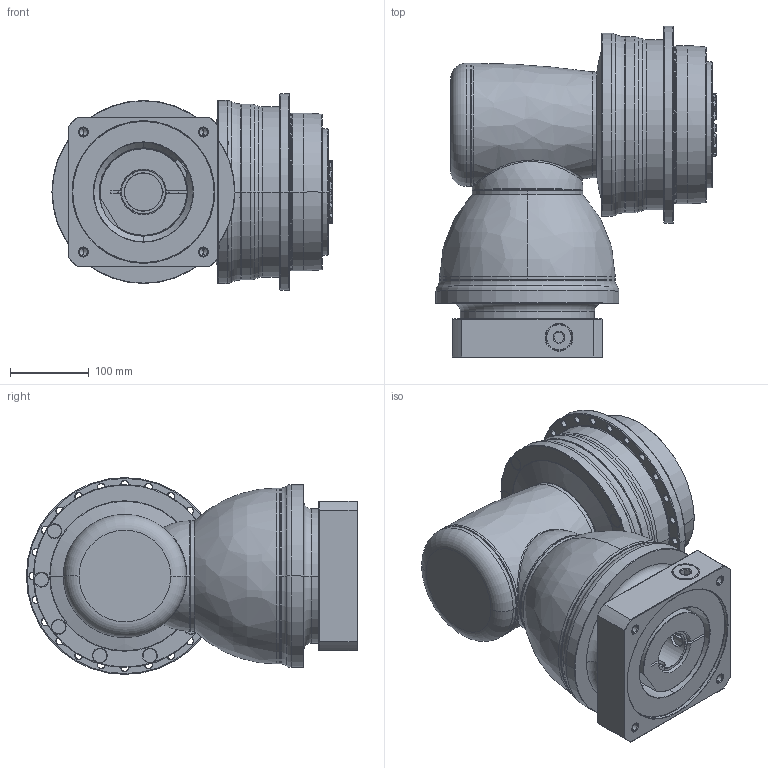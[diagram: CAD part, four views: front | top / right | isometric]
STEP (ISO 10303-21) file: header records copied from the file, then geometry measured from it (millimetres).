
FILE_DESCRIPTION((''),'2;1');
FILE_NAME('APCK200_2ST_SBG_48-P0409B10201_ASM','2018-05-21T',('d01226'),(''),'PRO/ENGINEER BY PARAMETRIC TECHNOLOGY CORPORATION, 2008410','PRO/ENGINEER BY PARAMETRIC TECHNOLOGY CORPORATION, 2008410','');
FILE_SCHEMA(('CONFIG_CONTROL_DESIGN'));
Length unit declared in the file: millimetre
Products named in the file (13): P0278601003; P0359660103; P1211600001; P1802610001; P1018600002; P1365600001; P1007601001; P1318610401; P0409B10201; P0503B00016; P0912654001; 21711426021; APCK200_2ST_SBG_48-P0409B10201_ASM
Assembly tree (12 placements, depth 2):
  APCK200_2ST_SBG_48-P0409B10201_ASM
    P0278601003
    P0359660103
    P1211600001
    P1802610001
    P1018600002
    P1365600001
    P1007601001
    P1318610401
    P0409B10201
    P0503B00016
    P0912654001
    21711426021
Bounding box: 355.1 x 419.75 x 249.5 mm (x, y, z)
Volume: 15716514.6 mm3; surface area: 1112229.6 mm2
Topology: 13 solids, 23 shells, 793 faces, 1863 edges, 1140 vertices
Faces by surface type: cylinder 267, cone 232, plane 152, torus 114, bspline 26, sphere 2
Entity records: 29642 total; most frequent: CARTESIAN_POINT 10790, DIRECTION 4271, ORIENTED_EDGE 3656, AXIS2_PLACEMENT_3D 1868, EDGE_CURVE 1849, VERTEX_POINT 1140, CIRCLE 1066, EDGE_LOOP 915
